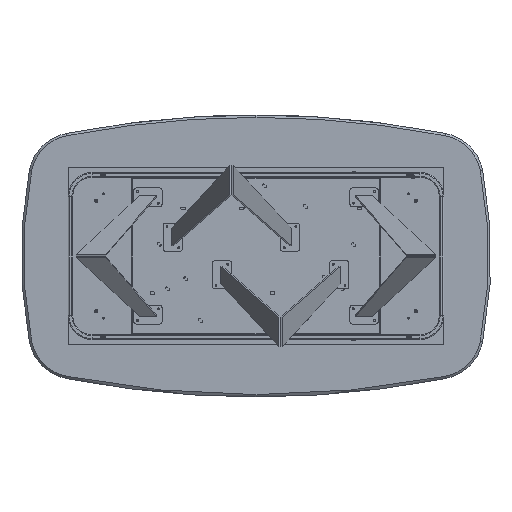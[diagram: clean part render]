
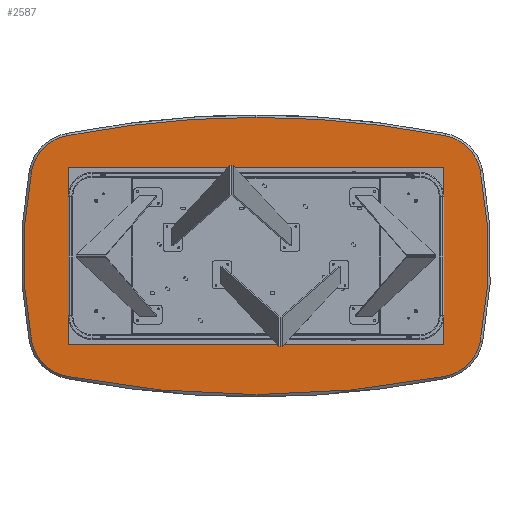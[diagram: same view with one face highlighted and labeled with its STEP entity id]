
A CAD part, front view. The second image highlights one B-rep face of the part: STEP entity #2587.
In plain terms, the highlighted planar face has unit normal (0, -1, 0).
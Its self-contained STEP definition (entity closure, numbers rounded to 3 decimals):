
#226 = ORIENTED_EDGE ( 'NONE', *, *, #18517, .T. ) ;
#956 = EDGE_CURVE ( 'NONE', #1631, #21511, #6432, .T. ) ;
#964 = DIRECTION ( 'NONE',  ( 0., 1., 0. ) ) ;
#1114 = EDGE_CURVE ( 'NONE', #6834, #1631, #23946, .T. ) ;
#1392 = VERTEX_POINT ( 'NONE', #20290 ) ;
#1584 = VERTEX_POINT ( 'NONE', #18583 ) ;
#1631 = VERTEX_POINT ( 'NONE', #15546 ) ;
#1698 = VERTEX_POINT ( 'NONE', #8581 ) ;
#2034 = ORIENTED_EDGE ( 'NONE', *, *, #10023, .T. ) ;
#2051 = EDGE_LOOP ( 'NONE', ( #5985, #2439, #226, #2351, #22608, #15652, #2971, #21006, #2034 ) ) ;
#2351 = ORIENTED_EDGE ( 'NONE', *, *, #4918, .T. ) ;
#2439 = ORIENTED_EDGE ( 'NONE', *, *, #15517, .T. ) ;
#2587 = ADVANCED_FACE ( 'NONE', ( #4370 ), #10003, .F. ) ;
#2618 = DIRECTION ( 'NONE',  ( 0., 0., 1. ) ) ;
#2971 = ORIENTED_EDGE ( 'NONE', *, *, #956, .T. ) ;
#3042 = DIRECTION ( 'NONE',  ( 0., 0., 1. ) ) ;
#3194 = VERTEX_POINT ( 'NONE', #7230 ) ;
#4101 = AXIS2_PLACEMENT_3D ( 'NONE', #5682, #13124, #11420 ) ;
#4370 = FACE_OUTER_BOUND ( 'NONE', #2051, .T. ) ;
#4461 = AXIS2_PLACEMENT_3D ( 'NONE', #9875, #964, #11818 ) ;
#4586 = CARTESIAN_POINT ( 'NONE',  ( 768.435, 0., -325.495 ) ) ;
#4918 = EDGE_CURVE ( 'NONE', #1584, #17704, #9573, .T. ) ;
#4925 = AXIS2_PLACEMENT_3D ( 'NONE', #14781, #12826, #22228 ) ;
#5682 = CARTESIAN_POINT ( 'NONE',  ( 0., 0., -3600. ) ) ;
#5692 = EDGE_CURVE ( 'NONE', #21511, #1392, #13900, .T. ) ;
#5698 = AXIS2_PLACEMENT_3D ( 'NONE', #12043, #17783, #12398 ) ;
#5985 = ORIENTED_EDGE ( 'NONE', *, *, #11972, .T. ) ;
#6124 = AXIS2_PLACEMENT_3D ( 'NONE', #4586, #6783, #19716 ) ;
#6432 = CIRCLE ( 'NONE', #20050, 4190. ) ;
#6783 = DIRECTION ( 'NONE',  ( 0., -1., 0. ) ) ;
#6834 = VERTEX_POINT ( 'NONE', #16009 ) ;
#6902 = DIRECTION ( 'NONE',  ( 0., -1., 0. ) ) ;
#7230 = CARTESIAN_POINT ( 'NONE',  ( -804.935, 0., -511.956 ) ) ;
#7782 = DIRECTION ( 'NONE',  ( 0., 0., 1. ) ) ;
#8581 = CARTESIAN_POINT ( 'NONE',  ( -954.894, 0., -362.002 ) ) ;
#9573 = CIRCLE ( 'NONE', #18132, 1884. ) ;
#9593 = DIRECTION ( 'NONE',  ( 0., 0., 1. ) ) ;
#9630 = CARTESIAN_POINT ( 'NONE',  ( 894., 0., 0. ) ) ;
#9875 = CARTESIAN_POINT ( 'NONE',  ( -447., 0., 1800. ) ) ;
#9904 = CIRCLE ( 'NONE', #15351, 190. ) ;
#10003 = PLANE ( 'NONE',  #4461 ) ;
#10023 = EDGE_CURVE ( 'NONE', #1392, #1698, #14545, .T. ) ;
#11420 = DIRECTION ( 'NONE',  ( 0., 0., 1. ) ) ;
#11818 = DIRECTION ( 'NONE',  ( 0., 0., 1. ) ) ;
#11889 = DIRECTION ( 'NONE',  ( 0., -1., 0. ) ) ;
#11972 = EDGE_CURVE ( 'NONE', #1698, #3194, #9904, .T. ) ;
#12043 = CARTESIAN_POINT ( 'NONE',  ( -768.435, 0., 325.495 ) ) ;
#12365 = CARTESIAN_POINT ( 'NONE',  ( 804.935, 0., -511.956 ) ) ;
#12398 = DIRECTION ( 'NONE',  ( 0., 0., 1. ) ) ;
#12826 = DIRECTION ( 'NONE',  ( 0., -1., 0. ) ) ;
#13119 = DIRECTION ( 'NONE',  ( 0., -1., 0. ) ) ;
#13124 = DIRECTION ( 'NONE',  ( 0., -1., 0. ) ) ;
#13141 = AXIS2_PLACEMENT_3D ( 'NONE', #20674, #13119, #9593 ) ;
#13900 = CIRCLE ( 'NONE', #5698, 190. ) ;
#13945 = VERTEX_POINT ( 'NONE', #12365 ) ;
#14202 = EDGE_CURVE ( 'NONE', #17704, #6834, #15468, .T. ) ;
#14224 = CARTESIAN_POINT ( 'NONE',  ( -768.435, 0., -325.495 ) ) ;
#14411 = CARTESIAN_POINT ( 'NONE',  ( 954.894, 0., 362.002 ) ) ;
#14545 = CIRCLE ( 'NONE', #21954, 1884. ) ;
#14781 = CARTESIAN_POINT ( 'NONE',  ( 768.435, 0., 325.495 ) ) ;
#15296 = CARTESIAN_POINT ( 'NONE',  ( -804.935, 0., 511.956 ) ) ;
#15351 = AXIS2_PLACEMENT_3D ( 'NONE', #14224, #6902, #19597 ) ;
#15468 = CIRCLE ( 'NONE', #4925, 190. ) ;
#15517 = EDGE_CURVE ( 'NONE', #3194, #13945, #23647, .T. ) ;
#15546 = CARTESIAN_POINT ( 'NONE',  ( 0., 0., 590. ) ) ;
#15652 = ORIENTED_EDGE ( 'NONE', *, *, #1114, .T. ) ;
#16009 = CARTESIAN_POINT ( 'NONE',  ( 804.935, 0., 511.956 ) ) ;
#17704 = VERTEX_POINT ( 'NONE', #14411 ) ;
#17783 = DIRECTION ( 'NONE',  ( 0., -1., 0. ) ) ;
#18132 = AXIS2_PLACEMENT_3D ( 'NONE', #19449, #11889, #2618 ) ;
#18517 = EDGE_CURVE ( 'NONE', #13945, #1584, #21308, .T. ) ;
#18583 = CARTESIAN_POINT ( 'NONE',  ( 954.894, 0., -362.002 ) ) ;
#19449 = CARTESIAN_POINT ( 'NONE',  ( -894., 0., 0. ) ) ;
#19597 = DIRECTION ( 'NONE',  ( 0., 0., 1. ) ) ;
#19716 = DIRECTION ( 'NONE',  ( 0., 0., 1. ) ) ;
#20050 = AXIS2_PLACEMENT_3D ( 'NONE', #20197, #22274, #3042 ) ;
#20197 = CARTESIAN_POINT ( 'NONE',  ( 0., 0., -3600. ) ) ;
#20290 = CARTESIAN_POINT ( 'NONE',  ( -954.894, 0., 362.002 ) ) ;
#20674 = CARTESIAN_POINT ( 'NONE',  ( 0., 0., 3600. ) ) ;
#20711 = DIRECTION ( 'NONE',  ( 0., -1., 0. ) ) ;
#21006 = ORIENTED_EDGE ( 'NONE', *, *, #5692, .T. ) ;
#21308 = CIRCLE ( 'NONE', #6124, 190. ) ;
#21511 = VERTEX_POINT ( 'NONE', #15296 ) ;
#21954 = AXIS2_PLACEMENT_3D ( 'NONE', #9630, #20711, #7782 ) ;
#22228 = DIRECTION ( 'NONE',  ( 0., 0., 1. ) ) ;
#22274 = DIRECTION ( 'NONE',  ( 0., -1., 0. ) ) ;
#22608 = ORIENTED_EDGE ( 'NONE', *, *, #14202, .T. ) ;
#23647 = CIRCLE ( 'NONE', #13141, 4190. ) ;
#23946 = CIRCLE ( 'NONE', #4101, 4190. ) ;
